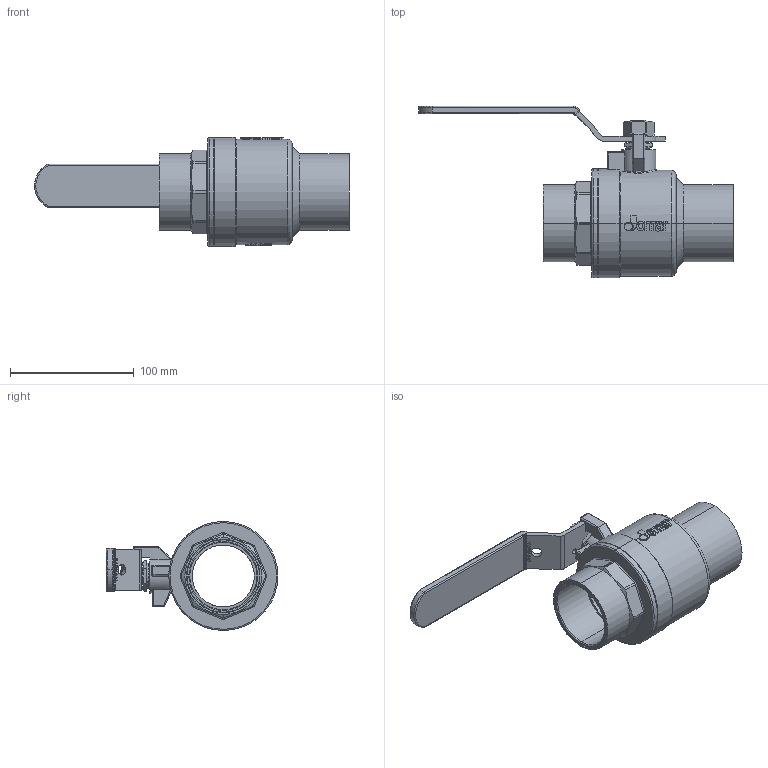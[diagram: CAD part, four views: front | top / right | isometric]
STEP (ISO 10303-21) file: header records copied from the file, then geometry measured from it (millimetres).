
FILE_DESCRIPTION (( 'STEP AP203' ), '1' );
FILE_NAME ('ABL738-礚本玛-2''''JOMAR 瞴恢砰舱-CxC.STEP', '2026-04-13T03:58:23', ( '' ), ( '' ), 'SwSTEP 2.0', 'SolidWorks 2018', '' );
FILE_SCHEMA (( 'CONFIG_CONTROL_DESIGN' ));
Length unit declared in the file: millimetre
Products named in the file (13): EBL208B; TBL269; BBL738-2''''JOMAR球閥體-CxC-有鉛-端面插溝-無LF; GBL218; DN50-CBL238黃色膠套-S-200CSS; NBL268; DN40-DN50-CBL737-無掛鎖把手組合-黃色膠套 S-200CSS; EBL308; EBL208C; RBL267; BBL738A-2''''JOMAR球閥-CxC帽蓋-有鉛-端面插溝; CBL238; ABL738-無掛鎖-2''''JOMAR 球閥體組合-CxC
Assembly tree (13 placements, depth 3):
  ABL738-無掛鎖-2''''JOMAR 球閥體組合-CxC
    BBL738-2''''JOMAR球閥體-CxC-有鉛-端面插溝-無LF
    EBL208C
    EBL208B
    RBL267
    GBL218
    DN40-DN50-CBL737-無掛鎖把手組合-黃色膠套 S-200CSS
      CBL238
      DN50-CBL238黃色膠套-S-200CSS
    BBL738A-2''''JOMAR球閥-CxC帽蓋-有鉛-端面插溝
    EBL308  x2
    NBL268
    TBL269
Bounding box: 253.9 x 138.51 x 88 mm (x, y, z)
Volume: 347204.7 mm3; surface area: 167871.2 mm2
Topology: 12 solids, 12 shells, 1461 faces, 3863 edges, 2527 vertices
Faces by surface type: plane 567, bspline 488, cylinder 280, cone 74, torus 38, sphere 14
Entity records: 84159 total; most frequent: CARTESIAN_POINT 50936, ORIENTED_EDGE 7650, DIRECTION 4860, EDGE_CURVE 3825, VERTEX_POINT 2507, VECTOR 1932, LINE 1932, EDGE_LOOP 1582
